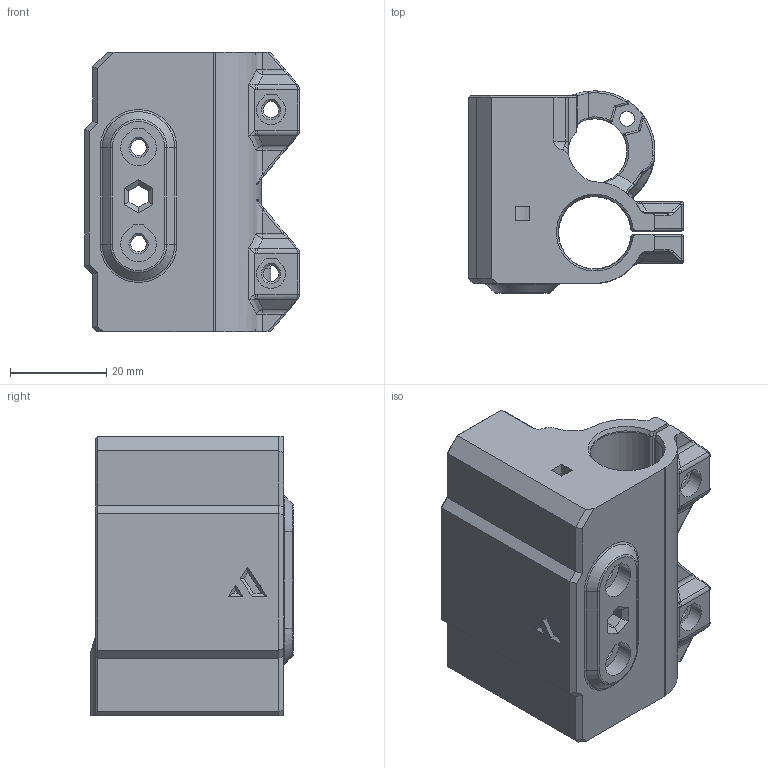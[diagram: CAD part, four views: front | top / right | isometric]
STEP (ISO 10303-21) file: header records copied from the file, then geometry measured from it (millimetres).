
FILE_DESCRIPTION(/* description */ (''),/* implementation_level */ '2;1');
FILE_NAME(/* name */ 'E:/Mihai/3D Printing/My Designs/Pit Stop/Adapted Revised X-Axis/step/X-Idler_3.01b (StockLike) v3.step',/* time_stamp */ '2021-01-11T09:08:13+02:00',/* author */ (''),/* organization */ (''),/* preprocessor_version */ 'ST-DEVELOPER v18.1',/* originating_system */ 'Autodesk Translation Framework v9.7.1.1290',/* authorisation */ '');
FILE_SCHEMA (('AUTOMOTIVE_DESIGN { 1 0 10303 214 3 1 1 }'));
Length unit declared in the file: millimetre
Products named in the file (1): X-Idler_3.01b (StockLike)
Bounding box: 44.6 x 42 x 58 mm (x, y, z)
Volume: 41761.4 mm3; surface area: 19916 mm2
Topology: 1 solids, 1 shells, 559 faces, 1392 edges, 815 vertices
Faces by surface type: plane 270, cylinder 123, bspline 95, torus 32, cone 21, sphere 18
Full cylindrical faces by diameter (mm): 3.1 x3, 10 x2, 13.4 x1, 14 x1
Entity records: 19566 total; most frequent: CARTESIAN_POINT 6857, ORIENTED_EDGE 2726, DIRECTION 2541, EDGE_CURVE 1363, AXIS2_PLACEMENT_3D 879, VERTEX_POINT 815, LINE 783, VECTOR 783
